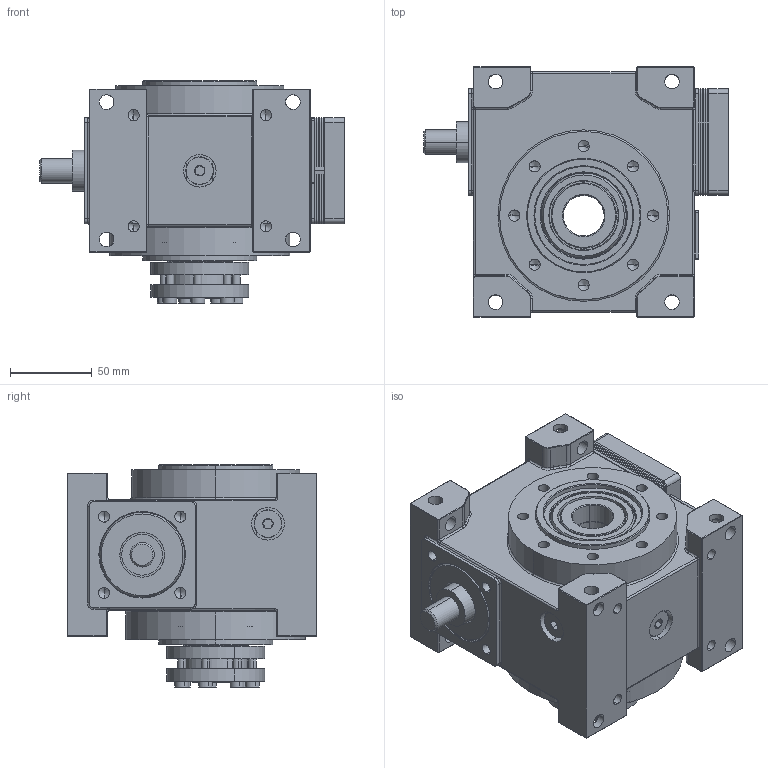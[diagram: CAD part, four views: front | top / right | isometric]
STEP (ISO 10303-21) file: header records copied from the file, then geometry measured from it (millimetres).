
FILE_DESCRIPTION (( 'STEP AP203' ), '1' );
FILE_NAME ('EDB45-60-P3- 拸萇儂楊擘1.STEP', '2022-01-11T09:16:35', ( '' ), ( '' ), 'SwSTEP 2.0', 'SolidWorks 2021', '' );
FILE_SCHEMA (( 'CONFIG_CONTROL_DESIGN' ));
Length unit declared in the file: millimetre
Products named in the file (1): EDB45-60-P3- 拸萇儂楊擘1
Bounding box: 186.5 x 153 x 136 mm (x, y, z)
Volume: 1895491.9 mm3; surface area: 279103.4 mm2
Topology: 27 solids, 40 shells, 1843 faces, 4853 edges, 3001 vertices
Faces by surface type: plane 674, cylinder 558, cone 326, torus 269, bspline 14, sphere 2
Entity records: 62538 total; most frequent: CARTESIAN_POINT 16991, DIRECTION 9665, ORIENTED_EDGE 9568, EDGE_CURVE 4784, AXIS2_PLACEMENT_3D 3917, VERTEX_POINT 3001, EDGE_LOOP 2121, CIRCLE 2087
